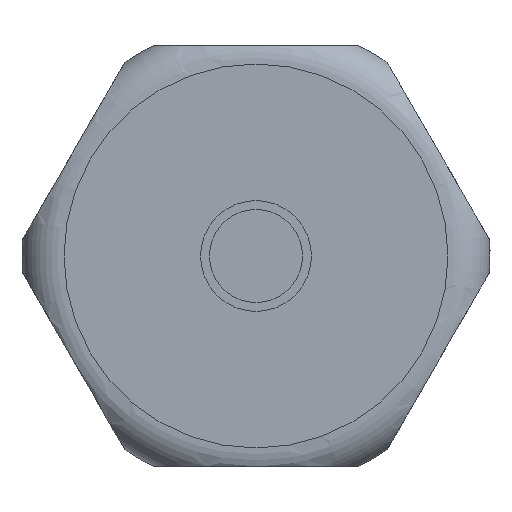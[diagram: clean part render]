
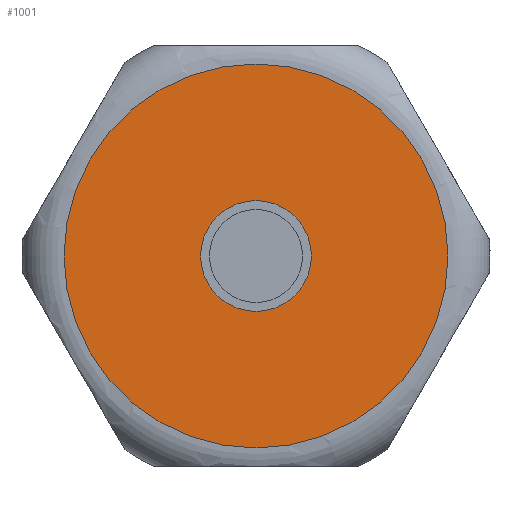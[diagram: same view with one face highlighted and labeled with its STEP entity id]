
A CAD part, left-side view. The second image highlights one B-rep face of the part: STEP entity #1001.
In plain terms, the highlighted planar face has unit normal (-1, 0, 0).
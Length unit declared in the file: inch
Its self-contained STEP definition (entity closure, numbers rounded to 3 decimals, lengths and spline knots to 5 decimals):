
#39=FACE_BOUND('',#151,.T.);
#60=PLANE('',#1109);
#94=FACE_OUTER_BOUND('',#150,.T.);
#150=EDGE_LOOP('',(#723,#724));
#151=EDGE_LOOP('',(#725,#726));
#269=CIRCLE('',#1065,0.14764);
#270=CIRCLE('',#1066,0.14764);
#296=CIRCLE('',#1110,0.51181);
#297=CIRCLE('',#1111,0.51181);
#365=VERTEX_POINT('',#1560);
#366=VERTEX_POINT('',#1561);
#405=VERTEX_POINT('',#1821);
#406=VERTEX_POINT('',#1822);
#472=EDGE_CURVE('',#365,#366,#269,.T.);
#473=EDGE_CURVE('',#366,#365,#270,.T.);
#529=EDGE_CURVE('',#405,#406,#296,.T.);
#530=EDGE_CURVE('',#406,#405,#297,.T.);
#723=ORIENTED_EDGE('',*,*,#529,.F.);
#724=ORIENTED_EDGE('',*,*,#530,.F.);
#725=ORIENTED_EDGE('',*,*,#472,.T.);
#726=ORIENTED_EDGE('',*,*,#473,.T.);
#1001=ADVANCED_FACE('',(#94,#39),#60,.T.);
#1065=AXIS2_PLACEMENT_3D('',#1562,#1226,#1227);
#1066=AXIS2_PLACEMENT_3D('',#1563,#1228,#1229);
#1109=AXIS2_PLACEMENT_3D('',#1820,#1330,#1331);
#1110=AXIS2_PLACEMENT_3D('',#1823,#1332,#1333);
#1111=AXIS2_PLACEMENT_3D('',#1824,#1334,#1335);
#1226=DIRECTION('center_axis',(1.,0.,0.));
#1227=DIRECTION('ref_axis',(0.,-0.866,0.5));
#1228=DIRECTION('center_axis',(1.,0.,0.));
#1229=DIRECTION('ref_axis',(0.,-0.866,0.5));
#1330=DIRECTION('center_axis',(-1.,0.,0.));
#1331=DIRECTION('ref_axis',(0.,-0.866,0.5));
#1332=DIRECTION('center_axis',(1.,0.,0.));
#1333=DIRECTION('ref_axis',(0.,0.866,-0.5));
#1334=DIRECTION('center_axis',(1.,0.,0.));
#1335=DIRECTION('ref_axis',(0.,0.866,-0.5));
#1560=CARTESIAN_POINT('',(-2.66747,-0.02656,-0.27052));
#1561=CARTESIAN_POINT('',(-2.66747,0.22916,-0.41816));
#1562=CARTESIAN_POINT('Origin',(-2.66747,0.1013,-0.34434));
#1563=CARTESIAN_POINT('Origin',(-2.66747,0.1013,-0.34434));
#1820=CARTESIAN_POINT('Origin',(-2.66747,0.54454,-0.60025));
#1821=CARTESIAN_POINT('',(-2.66747,0.54454,-0.60025));
#1822=CARTESIAN_POINT('',(-2.66747,-0.34194,-0.08844));
#1823=CARTESIAN_POINT('Origin',(-2.66747,0.1013,-0.34434));
#1824=CARTESIAN_POINT('Origin',(-2.66747,0.1013,-0.34434));
